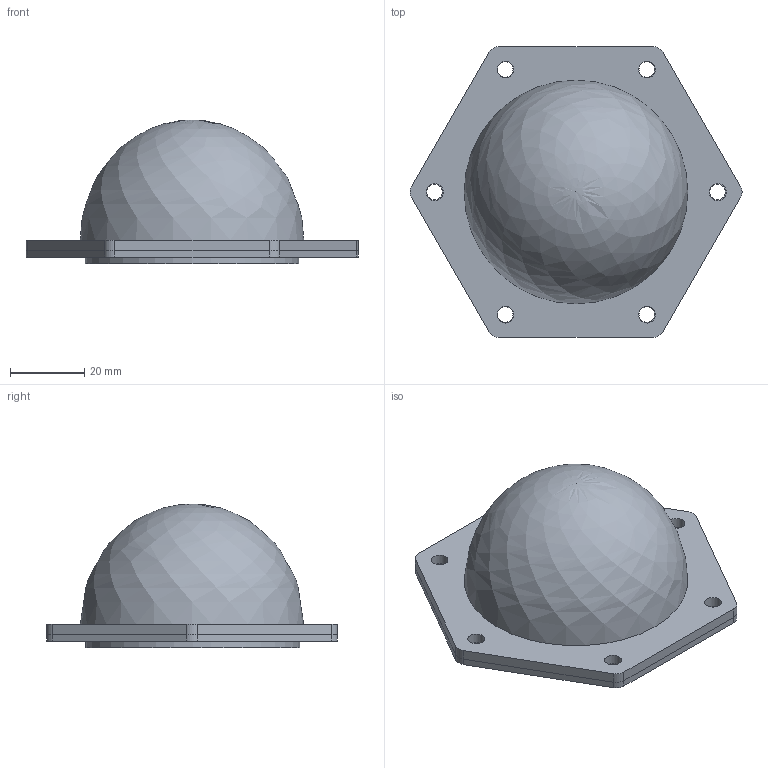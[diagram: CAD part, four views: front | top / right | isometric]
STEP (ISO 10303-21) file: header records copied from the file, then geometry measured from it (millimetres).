
FILE_DESCRIPTION(('FreeCAD Model'),'2;1');
FILE_NAME('Open CASCADE Shape Model','2025-02-21T19:42:35',(''),(''), 'Open CASCADE STEP processor 7.6','FreeCAD','Unknown');
FILE_SCHEMA(('AUTOMOTIVE_DESIGN { 1 0 10303 214 1 1 1 1 }'));
Length unit declared in the file: millimetre
Products named in the file (3): DomeD60H35_; DomeD60H35; DomeD60H003
Assembly tree (2 placements, depth 2):
  DomeD60H35_
    DomeD60H35
    DomeD60H003
Bounding box: 89.14 x 78 x 38.6 mm (x, y, z)
Volume: 22975.9 mm3; surface area: 20824.2 mm2
Topology: 2 solids, 2 shells, 55 faces, 128 edges, 85 vertices
Faces by surface type: cylinder 28, plane 24, revolution 3
Full cylindrical faces by diameter (mm): 4.2 x6, 4.5 x6, 55.4 x1, 57.4 x1, 61.8 x1, 70 x1
Entity records: 1692 total; most frequent: CARTESIAN_POINT 296, DIRECTION 295, ORIENTED_EDGE 252, EDGE_CURVE 126, AXIS2_PLACEMENT_3D 120, VERTEX_POINT 85, FACE_BOUND 79, EDGE_LOOP 79
